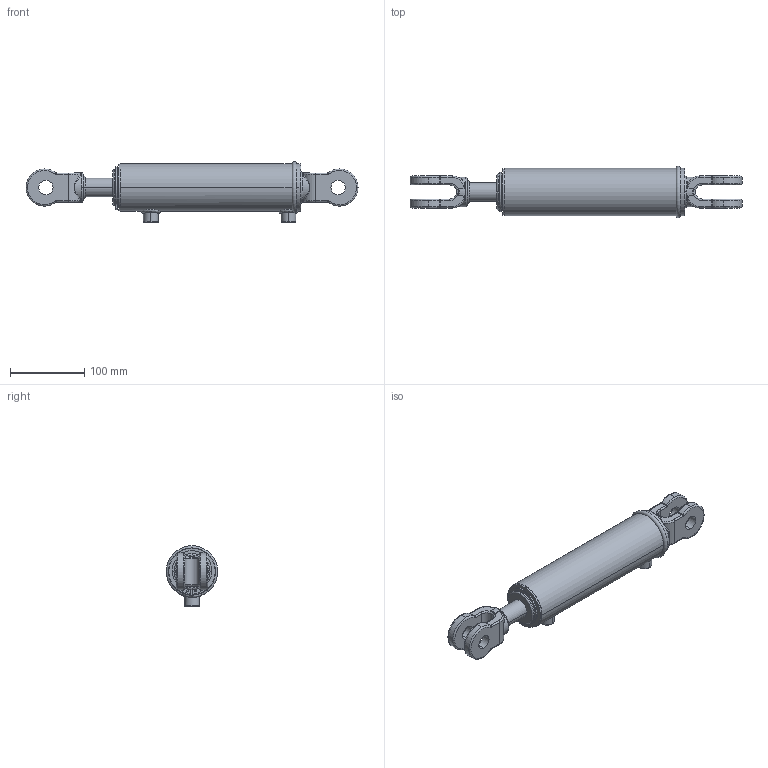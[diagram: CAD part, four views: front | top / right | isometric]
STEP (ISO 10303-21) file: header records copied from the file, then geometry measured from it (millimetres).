
FILE_DESCRIPTION (( 'STEP AP203' ), '1' );
FILE_NAME ('CL-CL200100x152 (6).STEP', '2014-11-20T22:08:40', ( '' ), ( '' ), 'SwSTEP 2.0', 'SolidWorks 2014', '' );
FILE_SCHEMA (( 'CONFIG_CONTROL_DESIGN' ));
Length unit declared in the file: millimetre
Products named in the file (5): 2 inch ext circlip; CL-CL200100x152 (6) BODY; 6 SPARE; CL-CL200100x152 (6); CL-CL150075x152 (6) BODY
Assembly tree (4 placements, depth 3):
  CL-CL200100x152 (6)
    CL-CL200100x152 (6) BODY
      CL-CL150075x152 (6) BODY
      2 inch ext circlip
    6 SPARE
Bounding box: 446.41 x 69.49 x 81.5 mm (x, y, z)
Volume: 989218.7 mm3; surface area: 125293.9 mm2
Topology: 3 solids, 3 shells, 284 faces, 701 edges, 419 vertices
Faces by surface type: bspline 117, cylinder 108, plane 37, torus 14, cone 8
Entity records: 24865 total; most frequent: CARTESIAN_POINT 18431, ORIENTED_EDGE 1370, DIRECTION 1046, EDGE_CURVE 685, AXIS2_PLACEMENT_3D 435, VERTEX_POINT 419, EDGE_LOOP 308, FACE_OUTER_BOUND 284
